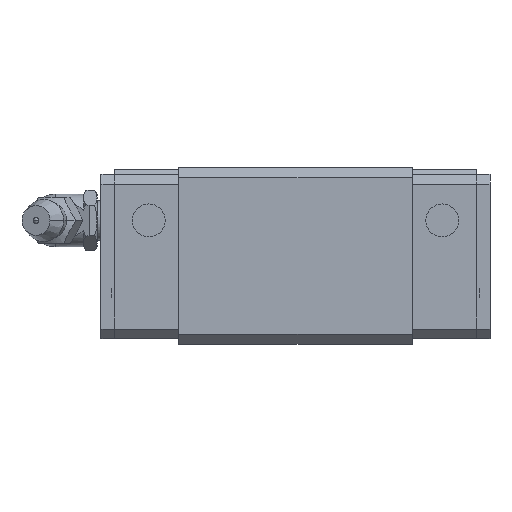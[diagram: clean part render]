
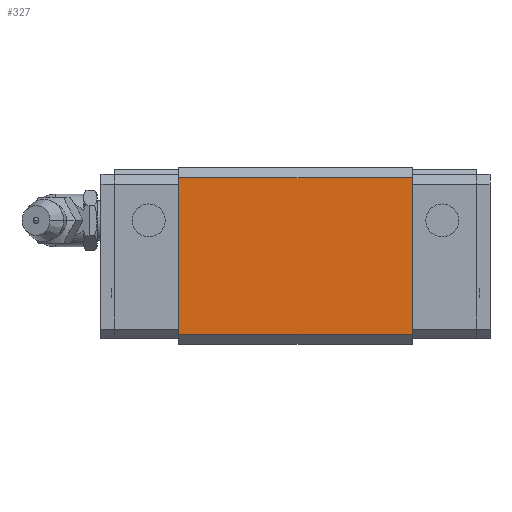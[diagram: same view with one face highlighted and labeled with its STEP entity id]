
A CAD part, front view. The second image highlights one B-rep face of the part: STEP entity #327.
In plain terms, the highlighted planar face has unit normal (0, -1, 0).
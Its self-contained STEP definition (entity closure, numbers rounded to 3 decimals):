
#266=CARTESIAN_POINT('POINT18',(47.3,-24.,
   0.7));
#267=VERTEX_POINT('VERTEX18',#266);
#274=CARTESIAN_POINT('POINT19',(11.8,-24.,
   0.7));
#275=VERTEX_POINT('VERTEX19',#274);
#276=CARTESIAN_POINT('POS29',(11.8,-24.,
   0.7));
#277=DIRECTION('DIR42',(1.,0.,0.));
#278=VECTOR('VEC16',#277,1.);
#279=LINE('STRAIGHT16',#276,#278);
#280=EDGE_CURVE('EDGE28',#275,#267,#279,.T.);
#297=CARTESIAN_POINT('POINT20',(47.3,-24.,
   24.5));
#298=VERTEX_POINT('VERTEX20',#297);
#299=CARTESIAN_POINT('POS32',(47.3,-24.,
   0.7));
#300=DIRECTION('DIR46',(0.,0.,1.));
#301=VECTOR('VEC18',#300,1.);
#302=LINE('STRAIGHT18',#299,#301);
#303=EDGE_CURVE('EDGE30',#267,#298,#302,.T.);
#304=ORIENTED_EDGE('COEDGE51',*,*,#303,.T.);
#305=CARTESIAN_POINT('POINT21',(11.8,-24.,
   24.5));
#306=VERTEX_POINT('VERTEX21',#305);
#307=CARTESIAN_POINT('POS33',(11.8,-24.,
   24.5));
#308=DIRECTION('DIR47',(1.,0.,0.));
#309=VECTOR('VEC19',#308,1.);
#310=LINE('STRAIGHT19',#307,#309);
#311=EDGE_CURVE('EDGE31',#306,#298,#310,.T.);
#312=ORIENTED_EDGE('COEDGE52',*,*,#311,.F.);
#313=CARTESIAN_POINT('POS34',(11.8,-24.,
   0.7));
#314=DIRECTION('DIR48',(0.,0.,1.));
#315=VECTOR('VEC20',#314,1.);
#316=LINE('STRAIGHT20',#313,#315);
#317=EDGE_CURVE('EDGE32',#275,#306,#316,.T.);
#318=ORIENTED_EDGE('COEDGE53',*,*,#317,.F.);
#319=ORIENTED_EDGE('COEDGE54',*,*,#280,.T.);
#320=EDGE_LOOP('NONE',(#304,#312,#318,#319));
#321=FACE_BOUND('LOOP1',#320,.T.);
#322=CARTESIAN_POINT('POS35',(11.8,-24.,
   0.7));
#323=DIRECTION('DIR49',(0.,-1.,0.));
#324=DIRECTION('DIR50',(1.,0.,0.));
#325=AXIS2_PLACEMENT_3D('AXIS15',#322,#323,#324);
#326=PLANE('PLANE4',#325);
#327=ADVANCED_FACE('FACE14',(#321),#326,.T.);
